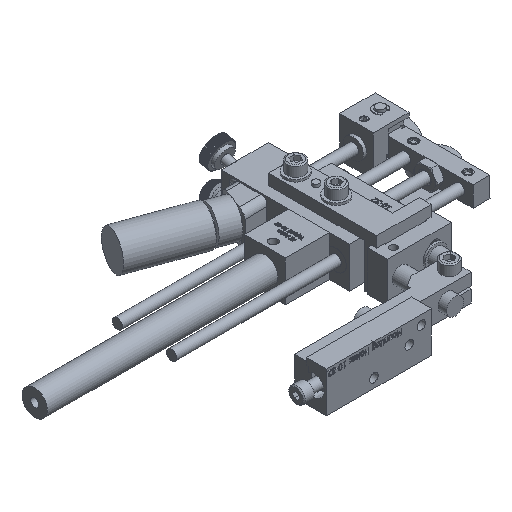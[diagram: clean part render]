
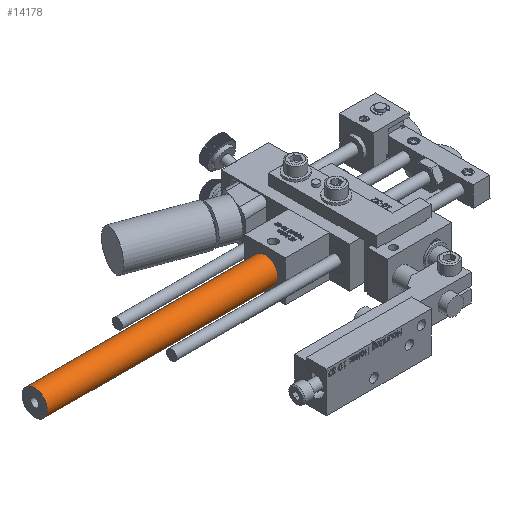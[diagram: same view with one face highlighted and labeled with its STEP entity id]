
A CAD part, isometric view. The second image highlights one B-rep face of the part: STEP entity #14178.
In plain terms, the highlighted cylindrical face has radius 5.969 mm (diameter 11.938 mm), a full revolution.
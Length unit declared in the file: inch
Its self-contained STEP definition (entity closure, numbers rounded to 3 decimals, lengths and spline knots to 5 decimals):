
#14151=CARTESIAN_POINT('',(-1.462,0.81465,0.36887));
#14152=DIRECTION('',(-1.0,0.,0.));
#14153=DIRECTION('',(0.,0.,1.0));
#14154=AXIS2_PLACEMENT_3D('',#14151,#14152,#14153);
#14155=CYLINDRICAL_SURFACE('',#14154,0.235);
#14156=CARTESIAN_POINT('',(-5.712,0.81465,0.13387));
#14157=VERTEX_POINT('',#14156);
#14158=CARTESIAN_POINT('',(-5.712,0.81465,0.36887));
#14159=DIRECTION('',(1.0,0.,0.));
#14160=DIRECTION('',(0.,0.,1.0));
#14161=AXIS2_PLACEMENT_3D('',#14158,#14159,#14160);
#14162=CIRCLE('',#14161,0.235);
#14163=EDGE_CURVE('',#14157,#14157,#14162,.T.);
#14164=ORIENTED_EDGE('',*,*,#14163,.T.);
#14165=EDGE_LOOP('',(#14164));
#14166=FACE_OUTER_BOUND('',#14165,.T.);
#14167=CARTESIAN_POINT('',(-1.462,0.81465,0.13387));
#14168=VERTEX_POINT('',#14167);
#14169=CARTESIAN_POINT('',(-1.462,0.81465,0.36887));
#14170=DIRECTION('',(1.0,0.,0.));
#14171=DIRECTION('',(0.,0.,1.0));
#14172=AXIS2_PLACEMENT_3D('',#14169,#14170,#14171);
#14173=CIRCLE('',#14172,0.235);
#14174=EDGE_CURVE('',#14168,#14168,#14173,.T.);
#14175=ORIENTED_EDGE('',*,*,#14174,.F.);
#14176=EDGE_LOOP('',(#14175));
#14177=FACE_BOUND('',#14176,.T.);
#14178=ADVANCED_FACE('',(#14166,#14177),#14155,.T.);
